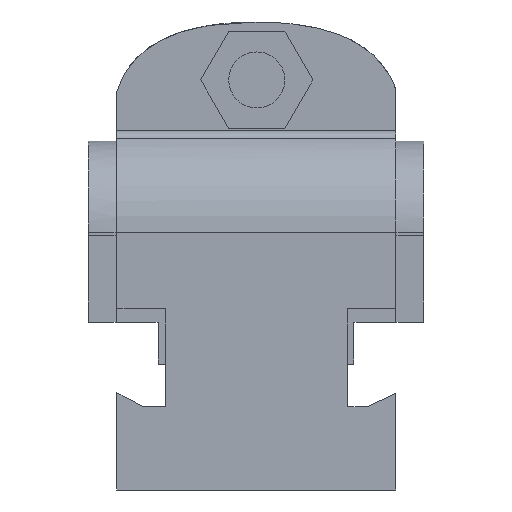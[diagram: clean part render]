
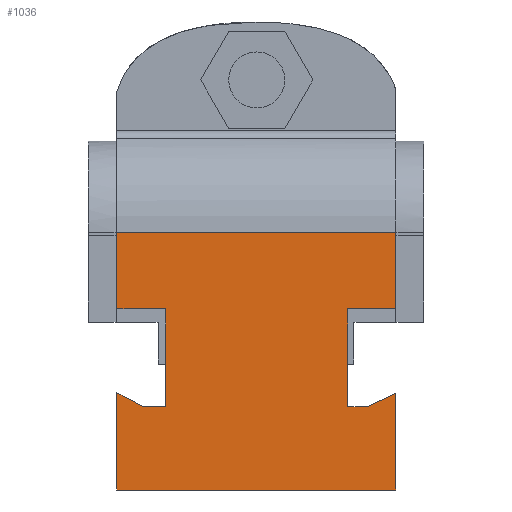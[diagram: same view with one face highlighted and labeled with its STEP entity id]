
A CAD part, left-side view. The second image highlights one B-rep face of the part: STEP entity #1036.
In plain terms, the highlighted planar face has unit normal (-1, 0, 0).
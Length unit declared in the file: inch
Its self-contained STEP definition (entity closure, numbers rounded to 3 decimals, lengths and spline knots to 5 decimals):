
#636=EDGE_CURVE('',#1713,#1714,#1715,.T.);
#646=EDGE_CURVE('',#1731,#1732,#1733,.T.);
#722=EDGE_CURVE('',#1863,#1756,#1864,.T.);
#872=EDGE_CURVE('',#2009,#1898,#2091,.T.);
#910=EDGE_CURVE('',#2142,#2143,#2144,.T.);
#972=EDGE_CURVE('',#1756,#1619,#2230,.T.);
#984=EDGE_CURVE('',#1713,#2246,#2247,.T.);
#1036=ADVANCED_FACE('',(#2319),#2320,.T.);
#1162=EDGE_CURVE('',#1732,#2142,#2483,.T.);
#1198=EDGE_CURVE('',#2143,#2286,#2528,.T.);
#1226=EDGE_CURVE('',#2286,#1863,#2560,.T.);
#1272=EDGE_CURVE('',#1619,#2009,#2612,.T.);
#1334=EDGE_CURVE('',#1714,#1731,#2682,.T.);
#1360=EDGE_CURVE('',#2181,#2246,#2713,.T.);
#1512=EDGE_CURVE('',#1898,#2181,#2888,.T.);
#1619=VERTEX_POINT('',#3032);
#1713=VERTEX_POINT('',#3171);
#1714=VERTEX_POINT('',#3172);
#1715=LINE('',#3173,#3174);
#1731=VERTEX_POINT('',#3201);
#1732=VERTEX_POINT('',#3202);
#1733=LINE('',#3203,#3204);
#1756=VERTEX_POINT('',#3245);
#1863=VERTEX_POINT('',#3439);
#1864=LINE('',#3440,#3441);
#1898=VERTEX_POINT('',#3559);
#2009=VERTEX_POINT('',#3749);
#2091=LINE('',#3961,#3962);
#2142=VERTEX_POINT('',#4063);
#2143=VERTEX_POINT('',#4064);
#2144=LINE('',#4065,#4066);
#2181=VERTEX_POINT('',#4127);
#2230=LINE('',#4219,#4220);
#2246=VERTEX_POINT('',#4247);
#2247=LINE('',#4248,#4249);
#2286=VERTEX_POINT('',#4333);
#2319=FACE_OUTER_BOUND('',#4395,.T.);
#2320=PLANE('',#4396);
#2483=LINE('',#4756,#4757);
#2528=LINE('',#4837,#4838);
#2560=LINE('',#4893,#4894);
#2612=LINE('',#5019,#5020);
#2682=LINE('',#5156,#5157);
#2713=LINE('',#5219,#5220);
#2888=LINE('',#5761,#5762);
#3032=CARTESIAN_POINT('',(0.0,0.12731,0.37142));
#3171=CARTESIAN_POINT('',(0.0,1.24627,1.15024));
#3172=CARTESIAN_POINT('',(0.0,1.24627,0.80892));
#3173=CARTESIAN_POINT('',(0.0,1.24627,0.93454));
#3174=VECTOR('',#5963,1.0);
#3201=CARTESIAN_POINT('',(0.0,1.02777,0.80892));
#3202=CARTESIAN_POINT('',(0.0,1.02777,0.37142));
#3203=CARTESIAN_POINT('',(0.0,1.02777,0.58264));
#3204=VECTOR('',#5967,1.0);
#3245=CARTESIAN_POINT('',(0.0,0.,0.43217));
#3439=CARTESIAN_POINT('',(0.0,0.,0.));
#3440=CARTESIAN_POINT('',(0.0,0.,1.15024));
#3441=VECTOR('',#6043,1.0);
#3559=CARTESIAN_POINT('',(0.0,0.21527,0.80892));
#3749=CARTESIAN_POINT('',(0.0,0.21527,0.37142));
#3961=CARTESIAN_POINT('',(0.0,0.21527,0.58264));
#3962=VECTOR('',#6296,1.0);
#4063=CARTESIAN_POINT('',(0.0,1.12731,0.37142));
#4064=CARTESIAN_POINT('',(0.0,1.24627,0.43395));
#4065=CARTESIAN_POINT('',(0.0,1.24706,0.43436));
#4066=VECTOR('',#6333,1.0);
#4127=CARTESIAN_POINT('',(0.0,0.,0.80892));
#4219=CARTESIAN_POINT('',(0.0,0.5122,0.18776));
#4220=VECTOR('',#6420,1.);
#4247=CARTESIAN_POINT('',(0.0,0.,1.15024));
#4248=CARTESIAN_POINT('',(0.0,1.25,1.15024));
#4249=VECTOR('',#6432,1.0);
#4333=CARTESIAN_POINT('',(0.0,1.24627,0.));
#4395=EDGE_LOOP('',(#6500,#6501,#6502,#6503,#6504,#6505,#6506,#6507,#6508,#6509,#6510,#6511,#6512,#6513));
#4396=AXIS2_PLACEMENT_3D('',#6514,#6515,#6516);
#4756=CARTESIAN_POINT('',(0.0,1.16377,0.37142));
#4757=VECTOR('',#6716,1.0);
#4837=CARTESIAN_POINT('',(0.0,1.24627,0.38097));
#4838=VECTOR('',#6772,1.0);
#4893=CARTESIAN_POINT('',(0.0,1.25,0.));
#4894=VECTOR('',#6816,1.0);
#5019=CARTESIAN_POINT('',(0.0,0.71064,0.37142));
#5020=VECTOR('',#6878,1.0);
#5156=CARTESIAN_POINT('',(0.0,1.19351,0.80892));
#5157=VECTOR('',#6960,1.0);
#5219=CARTESIAN_POINT('',(0.0,0.,1.15024));
#5220=VECTOR('',#7010,1.0);
#5761=CARTESIAN_POINT('',(0.0,0.67788,0.80892));
#5762=VECTOR('',#7248,1.0);
#5963=DIRECTION('',(0.0,-0.0,-1.0));
#5967=DIRECTION('',(0.0,-0.0,-1.0));
#6043=DIRECTION('',(0.0,0.0,1.0));
#6296=DIRECTION('',(0.0,0.0,1.0));
#6333=DIRECTION('',(0.0,0.885,0.465));
#6420=DIRECTION('',(-0.0,0.903,-0.431));
#6432=DIRECTION('',(0.0,-1.0,0.0));
#6500=ORIENTED_EDGE('',*,*,#1198,.T.);
#6501=ORIENTED_EDGE('',*,*,#1226,.T.);
#6502=ORIENTED_EDGE('',*,*,#722,.T.);
#6503=ORIENTED_EDGE('',*,*,#972,.T.);
#6504=ORIENTED_EDGE('',*,*,#1272,.T.);
#6505=ORIENTED_EDGE('',*,*,#872,.T.);
#6506=ORIENTED_EDGE('',*,*,#1512,.T.);
#6507=ORIENTED_EDGE('',*,*,#1360,.T.);
#6508=ORIENTED_EDGE('',*,*,#984,.F.);
#6509=ORIENTED_EDGE('',*,*,#636,.T.);
#6510=ORIENTED_EDGE('',*,*,#1334,.T.);
#6511=ORIENTED_EDGE('',*,*,#646,.T.);
#6512=ORIENTED_EDGE('',*,*,#1162,.T.);
#6513=ORIENTED_EDGE('',*,*,#910,.T.);
#6514=CARTESIAN_POINT('',(0.0,1.25,0.57512));
#6515=DIRECTION('',(-1.0,0.0,0.0));
#6516=DIRECTION('',(0.0,0.0,-1.0));
#6716=DIRECTION('',(-0.0,1.0,-0.0));
#6772=DIRECTION('',(0.0,-0.0,-1.0));
#6816=DIRECTION('',(0.0,-1.0,0.0));
#6878=DIRECTION('',(-0.0,1.0,-0.0));
#6960=DIRECTION('',(0.0,-1.0,0.0));
#7010=DIRECTION('',(0.0,0.0,1.0));
#7248=DIRECTION('',(0.0,-1.0,0.0));
